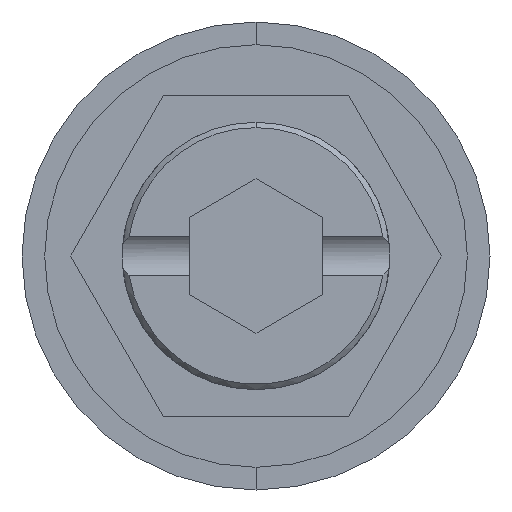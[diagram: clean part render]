
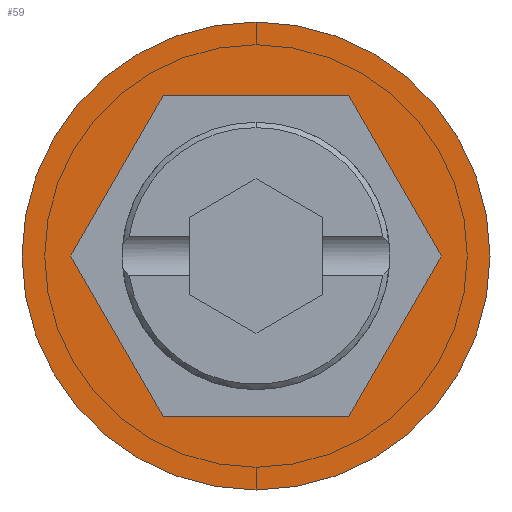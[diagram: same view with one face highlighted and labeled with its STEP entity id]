
A CAD part, front view. The second image highlights one B-rep face of the part: STEP entity #59.
In plain terms, the highlighted planar face has unit normal (0, -1, 0).
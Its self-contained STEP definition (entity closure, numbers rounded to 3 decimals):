
#59 = ADVANCED_FACE ( 'NONE', ( #1694, #1853 ), #1705, .T. ) ;
#74 = VECTOR ( 'NONE', #3179, 1000. ) ;
#202 = ORIENTED_EDGE ( 'NONE', *, *, #995, .F. ) ;
#226 = CARTESIAN_POINT ( 'NONE',  ( -3.464, 0., -6. ) ) ;
#229 = CARTESIAN_POINT ( 'NONE',  ( 6.928, 0., 0. ) ) ;
#240 = VECTOR ( 'NONE', #4363, 1000. ) ;
#275 = ORIENTED_EDGE ( 'NONE', *, *, #2769, .F. ) ;
#535 = VERTEX_POINT ( 'NONE', #2910 ) ;
#699 = VERTEX_POINT ( 'NONE', #2072 ) ;
#787 = CARTESIAN_POINT ( 'NONE',  ( 3.464, 0., 6. ) ) ;
#796 = VERTEX_POINT ( 'NONE', #1881 ) ;
#861 = CARTESIAN_POINT ( 'NONE',  ( 6.928, 0., 0. ) ) ;
#897 = LINE ( 'NONE', #787, #74 ) ;
#922 = ORIENTED_EDGE ( 'NONE', *, *, #4120, .F. ) ;
#925 = DIRECTION ( 'NONE',  ( -0.5, 0., 0.866 ) ) ;
#995 = EDGE_CURVE ( 'NONE', #3815, #1072, #2128, .T. ) ;
#1072 = VERTEX_POINT ( 'NONE', #3113 ) ;
#1151 = DIRECTION ( 'NONE',  ( 0., -1., 0. ) ) ;
#1168 = EDGE_CURVE ( 'NONE', #4382, #796, #1886, .T. ) ;
#1361 = VECTOR ( 'NONE', #925, 1000. ) ;
#1694 = FACE_BOUND ( 'NONE', #2104, .T. ) ;
#1705 = PLANE ( 'NONE',  #4203 ) ;
#1721 = DIRECTION ( 'NONE',  ( 0., 0., -1. ) ) ;
#1737 = DIRECTION ( 'NONE',  ( 0., -1., 0. ) ) ;
#1753 = DIRECTION ( 'NONE',  ( -0.5, 0., -0.866 ) ) ;
#1853 = FACE_OUTER_BOUND ( 'NONE', #2360, .T. ) ;
#1881 = CARTESIAN_POINT ( 'NONE',  ( 3.464, 0., 6. ) ) ;
#1886 = LINE ( 'NONE', #861, #1361 ) ;
#1905 = ORIENTED_EDGE ( 'NONE', *, *, #1991, .T. ) ;
#1972 = DIRECTION ( 'NONE',  ( 1., 0., 0. ) ) ;
#1991 = EDGE_CURVE ( 'NONE', #2096, #699, #2321, .T. ) ;
#2001 = CARTESIAN_POINT ( 'NONE',  ( -6.928, 0., 0. ) ) ;
#2066 = CARTESIAN_POINT ( 'NONE',  ( 0., 0., 0. ) ) ;
#2072 = CARTESIAN_POINT ( 'NONE',  ( 0., 0., -8.75 ) ) ;
#2096 = VERTEX_POINT ( 'NONE', #3932 ) ;
#2104 = EDGE_LOOP ( 'NONE', ( #3958, #922, #202, #275, #3648, #4185 ) ) ;
#2124 = VECTOR ( 'NONE', #1753, 1000. ) ;
#2128 = LINE ( 'NONE', #2363, #2124 ) ;
#2202 = LINE ( 'NONE', #3273, #4009 ) ;
#2256 = DIRECTION ( 'NONE',  ( 0.5, 0., 0.866 ) ) ;
#2321 = CIRCLE ( 'NONE', #2865, 8.75 ) ;
#2360 = EDGE_LOOP ( 'NONE', ( #3266, #1905 ) ) ;
#2363 = CARTESIAN_POINT ( 'NONE',  ( -3.464, 0., 6. ) ) ;
#2769 = EDGE_CURVE ( 'NONE', #796, #3815, #897, .T. ) ;
#2829 = EDGE_CURVE ( 'NONE', #699, #2096, #4437, .T. ) ;
#2865 = AXIS2_PLACEMENT_3D ( 'NONE', #4047, #3547, #3559 ) ;
#2910 = CARTESIAN_POINT ( 'NONE',  ( -3.464, 0., -6. ) ) ;
#3091 = EDGE_CURVE ( 'NONE', #4253, #4382, #2202, .T. ) ;
#3093 = CARTESIAN_POINT ( 'NONE',  ( 3.464, 0., -6. ) ) ;
#3113 = CARTESIAN_POINT ( 'NONE',  ( -6.928, 0., 0. ) ) ;
#3179 = DIRECTION ( 'NONE',  ( -1., 0., 0. ) ) ;
#3193 = CARTESIAN_POINT ( 'NONE',  ( 0., 0., 0. ) ) ;
#3266 = ORIENTED_EDGE ( 'NONE', *, *, #2829, .T. ) ;
#3273 = CARTESIAN_POINT ( 'NONE',  ( 3.464, 0., -6. ) ) ;
#3543 = DIRECTION ( 'NONE',  ( 0., 0., -1. ) ) ;
#3547 = DIRECTION ( 'NONE',  ( 0., -1., 0. ) ) ;
#3559 = DIRECTION ( 'NONE',  ( 0., 0., -1. ) ) ;
#3566 = LINE ( 'NONE', #2001, #240 ) ;
#3648 = ORIENTED_EDGE ( 'NONE', *, *, #1168, .F. ) ;
#3679 = VECTOR ( 'NONE', #1972, 1000. ) ;
#3783 = LINE ( 'NONE', #226, #3679 ) ;
#3815 = VERTEX_POINT ( 'NONE', #3989 ) ;
#3919 = AXIS2_PLACEMENT_3D ( 'NONE', #3193, #1151, #3543 ) ;
#3932 = CARTESIAN_POINT ( 'NONE',  ( 0., 0., 8.75 ) ) ;
#3958 = ORIENTED_EDGE ( 'NONE', *, *, #4078, .F. ) ;
#3989 = CARTESIAN_POINT ( 'NONE',  ( -3.464, 0., 6. ) ) ;
#4009 = VECTOR ( 'NONE', #2256, 1000. ) ;
#4047 = CARTESIAN_POINT ( 'NONE',  ( 0., 0., 0. ) ) ;
#4078 = EDGE_CURVE ( 'NONE', #535, #4253, #3783, .T. ) ;
#4120 = EDGE_CURVE ( 'NONE', #1072, #535, #3566, .T. ) ;
#4185 = ORIENTED_EDGE ( 'NONE', *, *, #3091, .F. ) ;
#4203 = AXIS2_PLACEMENT_3D ( 'NONE', #2066, #1737, #1721 ) ;
#4253 = VERTEX_POINT ( 'NONE', #3093 ) ;
#4363 = DIRECTION ( 'NONE',  ( 0.5, 0., -0.866 ) ) ;
#4382 = VERTEX_POINT ( 'NONE', #229 ) ;
#4437 = CIRCLE ( 'NONE', #3919, 8.75 ) ;
